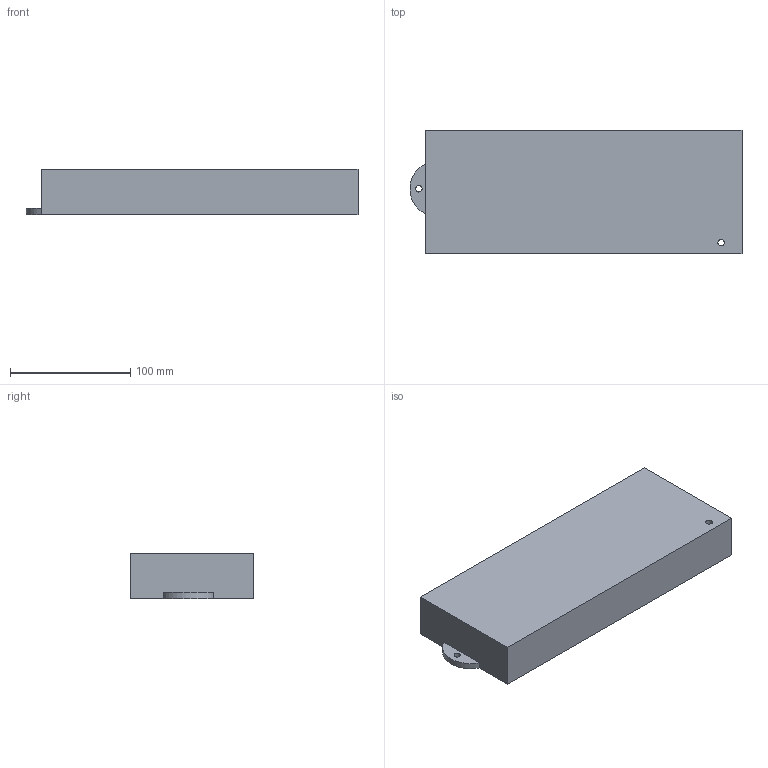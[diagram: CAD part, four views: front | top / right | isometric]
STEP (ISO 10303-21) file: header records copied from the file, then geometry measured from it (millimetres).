
FILE_DESCRIPTION( ( 'STEP AP214' ), '1' );
FILE_NAME( 'C:/Users/KOSH/Desktop/Active task/Connect Task/Office Delta/Export/New folder/9142061.stp', '2020-10-28T11:40:18', ( '' ), ( '' ), ' ', 'PARTsolutions', ' ' );
FILE_SCHEMA( ( 'AUTOMOTIVE_DESIGN { 1 0 10303 214 1 1 1 1 }' ) );
Length unit declared in the file: millimetre
Products named in the file (1): _9142061
Bounding box: 276.64 x 103 x 37.5 mm (x, y, z)
Volume: 1020679.7 mm3; surface area: 83353 mm2
Topology: 1 solids, 1 shells, 10 faces, 24 edges, 16 vertices
Faces by surface type: plane 7, cylinder 3
Full cylindrical faces by diameter (mm): 5.388 x1, 5.436 x1
Entity records: 388 total; most frequent: DIRECTION 50, CARTESIAN_POINT 49, ORIENTED_EDGE 44, EDGE_CURVE 22, AXIS2_PLACEMENT_3D 17, EDGE_LOOP 16, VERTEX_POINT 16, LINE 16
